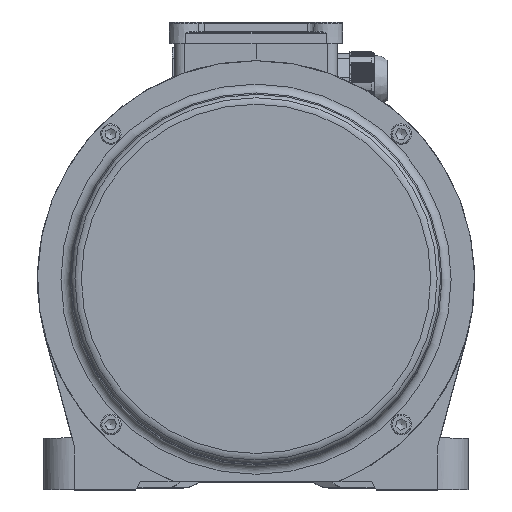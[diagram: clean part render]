
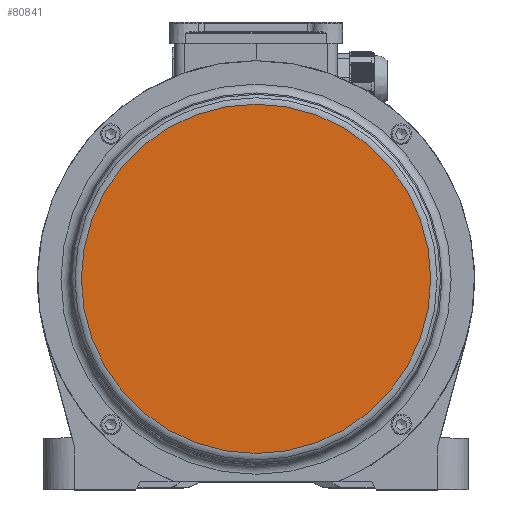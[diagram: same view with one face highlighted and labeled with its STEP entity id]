
A CAD part, top view. The second image highlights one B-rep face of the part: STEP entity #80841.
In plain terms, the highlighted planar face has unit normal (0, 0, 1).
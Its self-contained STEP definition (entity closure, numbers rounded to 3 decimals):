
#4619=PLANE('',#85746);
#7832=FACE_OUTER_BOUND('',#12170,.T.);
#12170=EDGE_LOOP('',(#56703));
#16682=CIRCLE('',#85742,85.5);
#34365=VERTEX_POINT('',#121062);
#42828=EDGE_CURVE('',#34365,#34365,#16682,.T.);
#56703=ORIENTED_EDGE('',*,*,#42828,.F.);
#80841=ADVANCED_FACE('',(#7832),#4619,.T.);
#85742=AXIS2_PLACEMENT_3D('',#121064,#92689,#92690);
#85746=AXIS2_PLACEMENT_3D('',#121069,#92697,#92698);
#92689=DIRECTION('center_axis',(0.,0.,
-1.));
#92690=DIRECTION('ref_axis',(0.,1.,0.));
#92697=DIRECTION('center_axis',(0.,0.,
1.));
#92698=DIRECTION('ref_axis',(1.,0.,0.));
#121062=CARTESIAN_POINT('',(61.143,0.227,204.));
#121064=CARTESIAN_POINT('Origin',(-24.357,0.227,204.));
#121069=CARTESIAN_POINT('Origin',(-24.357,42.977,204.));
